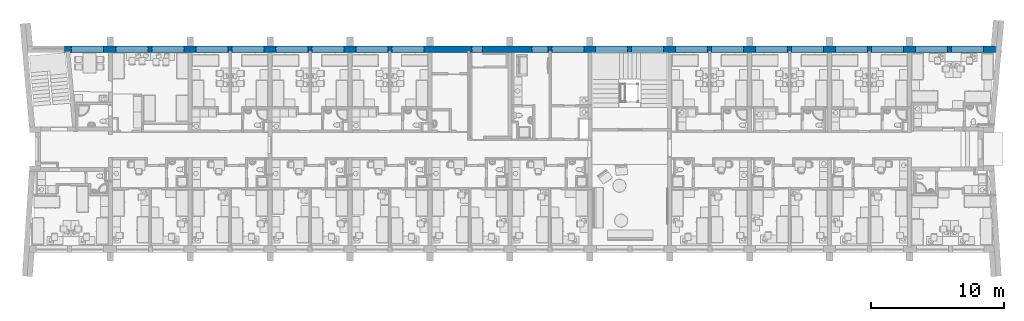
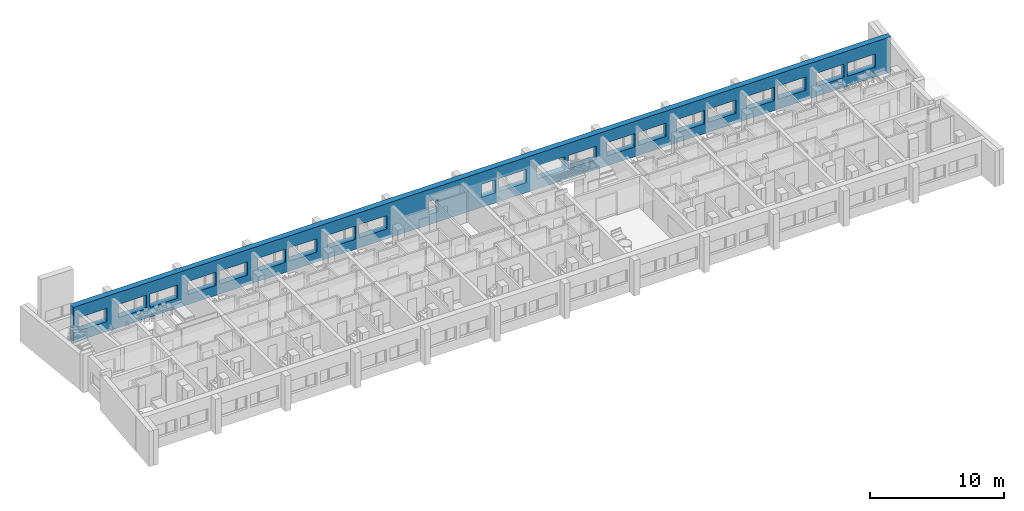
# One storey, part 18 of 165: 1 wall, 22 openings.
"""IFC2X3 building model written with IfcOpenShell, lengths in millimetres."""

from ifc_helpers import new_model, entity, si_unit, converted_unit, money_unit, direction, frame, origin_with_axes, place, context, subcontext, project, spatial, polyline, outline, extrude, material, layer, layer_set, layer_usage, type_object, element, save


model = new_model("IFC2X3")

# Units and contexts
model_context = context("Model", 3, precision=1e-05, world=origin_with_axes(), true_north=direction((0.0, 1.0)))
body_context = subcontext(model_context, "Body", "Model", "MODEL_VIEW")
ifc_project = project(units=[si_unit("LENGTHUNIT", "METRE", prefix="MILLI"), si_unit("AREAUNIT", "SQUARE_METRE"), si_unit("VOLUMEUNIT", "CUBIC_METRE"), converted_unit("PLANEANGLEUNIT", "DEGREE", entity("IfcPlaneAngleMeasure", 0.0174532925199), si_unit("PLANEANGLEUNIT", "RADIAN"), dimensions=[0, 0, 0, 0, 0, 0, 0]), si_unit("SOLIDANGLEUNIT", "STERADIAN"), money_unit("USD"), converted_unit("TIMEUNIT", "Year", entity("IfcTimeMeasure", 31556926.0), si_unit("TIMEUNIT", "SECOND"), dimensions=[0, 0, 0, 0, 0, 0, 0]), si_unit("MASSUNIT", "GRAM"), si_unit("THERMODYNAMICTEMPERATUREUNIT", "DEGREE_CELSIUS"), si_unit("LUMINOUSINTENSITYUNIT", "LUMEN")], contexts=[model_context])

# Site, building, storey
site_placement = place(None, origin_with_axes())
site = spatial("IfcSite", under=ifc_project, at=site_placement, Name="Site", CompositionType="ELEMENT")
building_placement = place(site_placement, origin_with_axes())
building = spatial("IfcBuilding", under=site, at=building_placement, Name="Building", CompositionType="ELEMENT")
storey_placement = place(building_placement, frame((0.0, 0.0, 6300.0), z_axis=(0.0, 0.0, 1.0), x_axis=(1.0, 0.0, 0.0)))
storey = spatial("IfcBuildingStorey", under=building, at=storey_placement, Name="4KORRUS", CompositionType="ELEMENT", Elevation=6300.0)

# Wall, openings
ifc_material = material(Name="Olemasolevad seinad tellis, uus viimistlus")
ifc_layer = layer(ifc_material, 500.0, ventilated="UNKNOWN")
ifc_layer_set = layer_set([ifc_layer], Name="Olemasolevad seinad tellis, uus viimistlus 500")
ifc_layer_usage = layer_usage(ifc_layer_set, "AXIS2", "POSITIVE", -100.0)
wall_type = type_object("IfcWallType", Name="Olemasolevad seinad tellis, uus viimistlus 500", PredefinedType="NOTDEFINED")
wall_placement = place(storey_placement, frame((-51569.3388124, -5039.6041088, 0.0), z_axis=(0.0, 0.0, 1.0), x_axis=(1.0, 0.0, 0.0)))
wall = element("IfcWallStandardCase", 1, at=wall_placement, inside=storey, type_object=wall_type, material=ifc_layer_usage, Name="VS1", ObjectType="VS1", context=body_context, shape_type="SweptSolid", body=[
    extrude(outline(polyline([(0.0, -100.0), (70325.3308379, -100.0), (70325.3308379, 400.0), (0.0, 400.0), (0.0, -100.0)])), origin_with_axes(), (0.0, 0.0, 1.0), 3200.0),
])
opening_1_placement = place(wall_placement, frame((30975.7406449, 0.0, 900.0), z_axis=(0.0, 0.0, 1.0), x_axis=(1.0, 0.0, 0.0)))
element("IfcOpeningElement", 2, at=opening_1_placement, cuts=wall, Name="WD - 001", context=body_context, shape_type="SweptSolid", body=[
    extrude(outline(polyline([(400.0, 1200.0), (-400.0, 1200.0), (-400.0, 0.0), (400.0, 0.0), (400.0, 1200.0)])), frame((0.0, 200.0, 0.0), z_axis=(0.0, -1.0, 0.0), x_axis=(1.0, 0.0, 0.0)), (0.0, 0.0, 1.0), 800.0),
    extrude(outline(polyline([(400.0, 0.0), (-400.0, 0.0), (-400.0, -1200.0), (400.0, -1200.0), (400.0, 0.0)])), frame((0.0, 200.0, 0.0), z_axis=(0.0, 1.0, 0.0), x_axis=(1.0, 0.0, 0.0)), (0.0, 0.0, 1.0), 700.0),
])
opening_2_placement = place(wall_placement, frame((1700.0, 0.0, 900.0), z_axis=(0.0, 0.0, 1.0), x_axis=(1.0, 0.0, 0.0)))
element("IfcOpeningElement", 3, at=opening_2_placement, cuts=wall, Name="A1", context=body_context, shape_type="SweptSolid", body=[
    extrude(outline(polyline([(1200.0, 1200.0), (-1200.0, 1200.0), (-1200.0, 0.0), (1200.0, 0.0), (1200.0, 1200.0)])), frame((0.0, 200.0, 0.0), z_axis=(0.0, -1.0, 0.0), x_axis=(1.0, 0.0, 0.0)), (0.0, 0.0, 1.0), 800.0),
    extrude(outline(polyline([(1200.0, 0.0), (-1200.0, 0.0), (-1200.0, -1200.0), (1200.0, -1200.0), (1200.0, 0.0)])), frame((0.0, 200.0, 0.0), z_axis=(0.0, 1.0, 0.0), x_axis=(1.0, 0.0, 0.0)), (0.0, 0.0, 1.0), 700.0),
])
opening_3_placement = place(wall_placement, frame((5072.04210911, 0.0, 900.0), z_axis=(0.0, 0.0, 1.0), x_axis=(1.0, 0.0, 0.0)))
element("IfcOpeningElement", 4, at=opening_3_placement, cuts=wall, Name="A2", context=body_context, shape_type="SweptSolid", body=[
    extrude(outline(polyline([(-1200.0, 1200.0), (-1200.0, 0.0), (1200.0, 0.0), (1200.0, 1200.0), (-1200.0, 1200.0)])), frame((0.0, 200.0, 0.0), z_axis=(0.0, -1.0, 0.0), x_axis=(1.0, 0.0, 0.0)), (0.0, 0.0, 1.0), 800.0),
    extrude(outline(polyline([(-1200.0, 0.0), (-1200.0, -1200.0), (1200.0, -1200.0), (1200.0, 0.0), (-1200.0, 0.0)])), frame((0.0, 200.0, 0.0), z_axis=(0.0, 1.0, 0.0), x_axis=(1.0, 0.0, 0.0)), (0.0, 0.0, 1.0), 700.0),
])
opening_4_placement = place(wall_placement, frame((7772.04210911, 0.0, 900.0), z_axis=(0.0, 0.0, 1.0), x_axis=(1.0, 0.0, 0.0)))
element("IfcOpeningElement", 5, at=opening_4_placement, cuts=wall, Name="A1", context=body_context, shape_type="SweptSolid", body=[
    extrude(outline(polyline([(1200.0, 1200.0), (-1200.0, 1200.0), (-1200.0, 0.0), (1200.0, 0.0), (1200.0, 1200.0)])), frame((0.0, 200.0, 0.0), z_axis=(0.0, -1.0, 0.0), x_axis=(1.0, 0.0, 0.0)), (0.0, 0.0, 1.0), 800.0),
    extrude(outline(polyline([(1200.0, 0.0), (-1200.0, 0.0), (-1200.0, -1200.0), (1200.0, -1200.0), (1200.0, 0.0)])), frame((0.0, 200.0, 0.0), z_axis=(0.0, 1.0, 0.0), x_axis=(1.0, 0.0, 0.0)), (0.0, 0.0, 1.0), 700.0),
])
opening_5_placement = place(wall_placement, frame((11071.8638221, 0.0, 900.0), z_axis=(0.0, 0.0, 1.0), x_axis=(1.0, 0.0, 0.0)))
element("IfcOpeningElement", 6, at=opening_5_placement, cuts=wall, Name="A2", context=body_context, shape_type="SweptSolid", body=[
    extrude(outline(polyline([(-1200.0, 1200.0), (-1200.0, 0.0), (1200.0, 0.0), (1200.0, 1200.0), (-1200.0, 1200.0)])), frame((0.0, 200.0, 0.0), z_axis=(0.0, -1.0, 0.0), x_axis=(1.0, 0.0, 0.0)), (0.0, 0.0, 1.0), 800.0),
    extrude(outline(polyline([(-1200.0, 0.0), (-1200.0, -1200.0), (1200.0, -1200.0), (1200.0, 0.0), (-1200.0, 0.0)])), frame((0.0, 200.0, 0.0), z_axis=(0.0, 1.0, 0.0), x_axis=(1.0, 0.0, 0.0)), (0.0, 0.0, 1.0), 700.0),
])
opening_6_placement = place(wall_placement, frame((13771.8638221, 0.0, 900.0), z_axis=(0.0, 0.0, 1.0), x_axis=(1.0, 0.0, 0.0)))
element("IfcOpeningElement", 7, at=opening_6_placement, cuts=wall, Name="A1", context=body_context, shape_type="SweptSolid", body=[
    extrude(outline(polyline([(1200.0, 1200.0), (-1200.0, 1200.0), (-1200.0, 0.0), (1200.0, 0.0), (1200.0, 1200.0)])), frame((0.0, 200.0, 0.0), z_axis=(0.0, -1.0, 0.0), x_axis=(1.0, 0.0, 0.0)), (0.0, 0.0, 1.0), 800.0),
    extrude(outline(polyline([(1200.0, 0.0), (-1200.0, 0.0), (-1200.0, -1200.0), (1200.0, -1200.0), (1200.0, 0.0)])), frame((0.0, 200.0, 0.0), z_axis=(0.0, 1.0, 0.0), x_axis=(1.0, 0.0, 0.0)), (0.0, 0.0, 1.0), 700.0),
])
opening_7_placement = place(wall_placement, frame((17060.2982981, 0.0, 900.0), z_axis=(0.0, 0.0, 1.0), x_axis=(1.0, 0.0, 0.0)))
element("IfcOpeningElement", 8, at=opening_7_placement, cuts=wall, Name="A2", context=body_context, shape_type="SweptSolid", body=[
    extrude(outline(polyline([(-1200.0, 1200.0), (-1200.0, 0.0), (1200.0, 0.0), (1200.0, 1200.0), (-1200.0, 1200.0)])), frame((0.0, 200.0, 0.0), z_axis=(0.0, -1.0, 0.0), x_axis=(1.0, 0.0, 0.0)), (0.0, 0.0, 1.0), 800.0),
    extrude(outline(polyline([(-1200.0, 0.0), (-1200.0, -1200.0), (1200.0, -1200.0), (1200.0, 0.0), (-1200.0, 0.0)])), frame((0.0, 200.0, 0.0), z_axis=(0.0, 1.0, 0.0), x_axis=(1.0, 0.0, 0.0)), (0.0, 0.0, 1.0), 700.0),
])
opening_8_placement = place(wall_placement, frame((19760.2982981, 0.0, 900.0), z_axis=(0.0, 0.0, 1.0), x_axis=(1.0, 0.0, 0.0)))
element("IfcOpeningElement", 9, at=opening_8_placement, cuts=wall, Name="A1", context=body_context, shape_type="SweptSolid", body=[
    extrude(outline(polyline([(1200.0, 1200.0), (-1200.0, 1200.0), (-1200.0, 0.0), (1200.0, 0.0), (1200.0, 1200.0)])), frame((0.0, 200.0, 0.0), z_axis=(0.0, -1.0, 0.0), x_axis=(1.0, 0.0, 0.0)), (0.0, 0.0, 1.0), 800.0),
    extrude(outline(polyline([(1200.0, 0.0), (-1200.0, 0.0), (-1200.0, -1200.0), (1200.0, -1200.0), (1200.0, 0.0)])), frame((0.0, 200.0, 0.0), z_axis=(0.0, 1.0, 0.0), x_axis=(1.0, 0.0, 0.0)), (0.0, 0.0, 1.0), 700.0),
])
opening_9_placement = place(wall_placement, frame((23071.8638221, 0.0, 900.0), z_axis=(0.0, 0.0, 1.0), x_axis=(1.0, 0.0, 0.0)))
element("IfcOpeningElement", 10, at=opening_9_placement, cuts=wall, Name="A2", context=body_context, shape_type="SweptSolid", body=[
    extrude(outline(polyline([(-1200.0, 1200.0), (-1200.0, 0.0), (1200.0, 0.0), (1200.0, 1200.0), (-1200.0, 1200.0)])), frame((0.0, 200.0, 0.0), z_axis=(0.0, -1.0, 0.0), x_axis=(1.0, 0.0, 0.0)), (0.0, 0.0, 1.0), 800.0),
    extrude(outline(polyline([(-1200.0, 0.0), (-1200.0, -1200.0), (1200.0, -1200.0), (1200.0, 0.0), (-1200.0, 0.0)])), frame((0.0, 200.0, 0.0), z_axis=(0.0, 1.0, 0.0), x_axis=(1.0, 0.0, 0.0)), (0.0, 0.0, 1.0), 700.0),
])
opening_10_placement = place(wall_placement, frame((25771.8638221, 0.0, 900.0), z_axis=(0.0, 0.0, 1.0), x_axis=(1.0, 0.0, 0.0)))
element("IfcOpeningElement", 11, at=opening_10_placement, cuts=wall, Name="A1", context=body_context, shape_type="SweptSolid", body=[
    extrude(outline(polyline([(1200.0, 1200.0), (-1200.0, 1200.0), (-1200.0, 0.0), (1200.0, 0.0), (1200.0, 1200.0)])), frame((0.0, 200.0, 0.0), z_axis=(0.0, -1.0, 0.0), x_axis=(1.0, 0.0, 0.0)), (0.0, 0.0, 1.0), 800.0),
    extrude(outline(polyline([(1200.0, 0.0), (-1200.0, 0.0), (-1200.0, -1200.0), (1200.0, -1200.0), (1200.0, 0.0)])), frame((0.0, 200.0, 0.0), z_axis=(0.0, 1.0, 0.0), x_axis=(1.0, 0.0, 0.0)), (0.0, 0.0, 1.0), 700.0),
])
opening_11_placement = place(wall_placement, frame((37782.0421091, 0.0, 900.0), z_axis=(0.0, 0.0, 1.0), x_axis=(1.0, 0.0, 0.0)))
element("IfcOpeningElement", 12, at=opening_11_placement, cuts=wall, Name="A1", context=body_context, shape_type="SweptSolid", body=[
    extrude(outline(polyline([(1200.0, 1200.0), (-1200.0, 1200.0), (-1200.0, 0.0), (1200.0, 0.0), (1200.0, 1200.0)])), frame((0.0, 200.0, 0.0), z_axis=(0.0, -1.0, 0.0), x_axis=(1.0, 0.0, 0.0)), (0.0, 0.0, 1.0), 800.0),
    extrude(outline(polyline([(1200.0, 0.0), (-1200.0, 0.0), (-1200.0, -1200.0), (1200.0, -1200.0), (1200.0, 0.0)])), frame((0.0, 200.0, 0.0), z_axis=(0.0, 1.0, 0.0), x_axis=(1.0, 0.0, 0.0)), (0.0, 0.0, 1.0), 700.0),
])
opening_12_placement = place(wall_placement, frame((35682.0421091, 0.0, 900.0), z_axis=(0.0, 0.0, 1.0), x_axis=(1.0, 0.0, 0.0)))
element("IfcOpeningElement", 13, at=opening_12_placement, cuts=wall, Name="A3", context=body_context, shape_type="SweptSolid", body=[
    extrude(outline(polyline([(-600.0, 1200.0), (-600.0, 0.0), (600.0, 0.0), (600.0, 1200.0), (-600.0, 1200.0)])), frame((0.0, 200.0, 0.0), z_axis=(0.0, -1.0, 0.0), x_axis=(1.0, 0.0, 0.0)), (0.0, 0.0, 1.0), 800.0),
    extrude(outline(polyline([(-600.0, 0.0), (-600.0, -1200.0), (600.0, -1200.0), (600.0, 0.0), (-600.0, 0.0)])), frame((0.0, 200.0, 0.0), z_axis=(0.0, 1.0, 0.0), x_axis=(1.0, 0.0, 0.0)), (0.0, 0.0, 1.0), 700.0),
])
opening_13_placement = place(wall_placement, frame((41071.8638221, 0.0, 900.0), z_axis=(0.0, 0.0, 1.0), x_axis=(1.0, 0.0, 0.0)))
element("IfcOpeningElement", 14, at=opening_13_placement, cuts=wall, Name="A2", context=body_context, shape_type="SweptSolid", body=[
    extrude(outline(polyline([(-1200.0, 1200.0), (-1200.0, 0.0), (1200.0, 0.0), (1200.0, 1200.0), (-1200.0, 1200.0)])), frame((0.0, 200.0, 0.0), z_axis=(0.0, -1.0, 0.0), x_axis=(1.0, 0.0, 0.0)), (0.0, 0.0, 1.0), 800.0),
    extrude(outline(polyline([(-1200.0, 0.0), (-1200.0, -1200.0), (1200.0, -1200.0), (1200.0, 0.0), (-1200.0, 0.0)])), frame((0.0, 200.0, 0.0), z_axis=(0.0, 1.0, 0.0), x_axis=(1.0, 0.0, 0.0)), (0.0, 0.0, 1.0), 700.0),
])
opening_14_placement = place(wall_placement, frame((43771.8638221, 0.0, 900.0), z_axis=(0.0, 0.0, 1.0), x_axis=(1.0, 0.0, 0.0)))
element("IfcOpeningElement", 15, at=opening_14_placement, cuts=wall, Name="A1", context=body_context, shape_type="SweptSolid", body=[
    extrude(outline(polyline([(1200.0, 1200.0), (-1200.0, 1200.0), (-1200.0, 0.0), (1200.0, 0.0), (1200.0, 1200.0)])), frame((0.0, 200.0, 0.0), z_axis=(0.0, -1.0, 0.0), x_axis=(1.0, 0.0, 0.0)), (0.0, 0.0, 1.0), 800.0),
    extrude(outline(polyline([(1200.0, 0.0), (-1200.0, 0.0), (-1200.0, -1200.0), (1200.0, -1200.0), (1200.0, 0.0)])), frame((0.0, 200.0, 0.0), z_axis=(0.0, 1.0, 0.0), x_axis=(1.0, 0.0, 0.0)), (0.0, 0.0, 1.0), 700.0),
])
opening_15_placement = place(wall_placement, frame((47082.0421091, 0.0, 900.0), z_axis=(0.0, 0.0, 1.0), x_axis=(1.0, 0.0, 0.0)))
element("IfcOpeningElement", 16, at=opening_15_placement, cuts=wall, Name="A2", context=body_context, shape_type="SweptSolid", body=[
    extrude(outline(polyline([(-1200.0, 1200.0), (-1200.0, 0.0), (1200.0, 0.0), (1200.0, 1200.0), (-1200.0, 1200.0)])), frame((0.0, 200.0, 0.0), z_axis=(0.0, -1.0, 0.0), x_axis=(1.0, 0.0, 0.0)), (0.0, 0.0, 1.0), 800.0),
    extrude(outline(polyline([(-1200.0, 0.0), (-1200.0, -1200.0), (1200.0, -1200.0), (1200.0, 0.0), (-1200.0, 0.0)])), frame((0.0, 200.0, 0.0), z_axis=(0.0, 1.0, 0.0), x_axis=(1.0, 0.0, 0.0)), (0.0, 0.0, 1.0), 700.0),
])
opening_16_placement = place(wall_placement, frame((49782.0421091, 0.0, 900.0), z_axis=(0.0, 0.0, 1.0), x_axis=(1.0, 0.0, 0.0)))
element("IfcOpeningElement", 17, at=opening_16_placement, cuts=wall, Name="A1", context=body_context, shape_type="SweptSolid", body=[
    extrude(outline(polyline([(1200.0, 1200.0), (-1200.0, 1200.0), (-1200.0, 0.0), (1200.0, 0.0), (1200.0, 1200.0)])), frame((0.0, 200.0, 0.0), z_axis=(0.0, -1.0, 0.0), x_axis=(1.0, 0.0, 0.0)), (0.0, 0.0, 1.0), 800.0),
    extrude(outline(polyline([(1200.0, 0.0), (-1200.0, 0.0), (-1200.0, -1200.0), (1200.0, -1200.0), (1200.0, 0.0)])), frame((0.0, 200.0, 0.0), z_axis=(0.0, 1.0, 0.0), x_axis=(1.0, 0.0, 0.0)), (0.0, 0.0, 1.0), 700.0),
])
opening_17_placement = place(wall_placement, frame((53082.0421091, 0.0, 900.0), z_axis=(0.0, 0.0, 1.0), x_axis=(1.0, 0.0, 0.0)))
element("IfcOpeningElement", 18, at=opening_17_placement, cuts=wall, Name="A2", context=body_context, shape_type="SweptSolid", body=[
    extrude(outline(polyline([(-1200.0, 1200.0), (-1200.0, 0.0), (1200.0, 0.0), (1200.0, 1200.0), (-1200.0, 1200.0)])), frame((0.0, 200.0, 0.0), z_axis=(0.0, -1.0, 0.0), x_axis=(1.0, 0.0, 0.0)), (0.0, 0.0, 1.0), 800.0),
    extrude(outline(polyline([(-1200.0, 0.0), (-1200.0, -1200.0), (1200.0, -1200.0), (1200.0, 0.0), (-1200.0, 0.0)])), frame((0.0, 200.0, 0.0), z_axis=(0.0, 1.0, 0.0), x_axis=(1.0, 0.0, 0.0)), (0.0, 0.0, 1.0), 700.0),
])
opening_18_placement = place(wall_placement, frame((55782.0421091, 0.0, 900.0), z_axis=(0.0, 0.0, 1.0), x_axis=(1.0, 0.0, 0.0)))
element("IfcOpeningElement", 19, at=opening_18_placement, cuts=wall, Name="A1", context=body_context, shape_type="SweptSolid", body=[
    extrude(outline(polyline([(1200.0, 1200.0), (-1200.0, 1200.0), (-1200.0, 0.0), (1200.0, 0.0), (1200.0, 1200.0)])), frame((0.0, 200.0, 0.0), z_axis=(0.0, -1.0, 0.0), x_axis=(1.0, 0.0, 0.0)), (0.0, 0.0, 1.0), 800.0),
    extrude(outline(polyline([(1200.0, 0.0), (-1200.0, 0.0), (-1200.0, -1200.0), (1200.0, -1200.0), (1200.0, 0.0)])), frame((0.0, 200.0, 0.0), z_axis=(0.0, 1.0, 0.0), x_axis=(1.0, 0.0, 0.0)), (0.0, 0.0, 1.0), 700.0),
])
opening_19_placement = place(wall_placement, frame((59082.0421091, 0.0, 900.0), z_axis=(0.0, 0.0, 1.0), x_axis=(1.0, 0.0, 0.0)))
element("IfcOpeningElement", 20, at=opening_19_placement, cuts=wall, Name="A2", context=body_context, shape_type="SweptSolid", body=[
    extrude(outline(polyline([(-1200.0, 1200.0), (-1200.0, 0.0), (1200.0, 0.0), (1200.0, 1200.0), (-1200.0, 1200.0)])), frame((0.0, 200.0, 0.0), z_axis=(0.0, -1.0, 0.0), x_axis=(1.0, 0.0, 0.0)), (0.0, 0.0, 1.0), 800.0),
    extrude(outline(polyline([(-1200.0, 0.0), (-1200.0, -1200.0), (1200.0, -1200.0), (1200.0, 0.0), (-1200.0, 0.0)])), frame((0.0, 200.0, 0.0), z_axis=(0.0, 1.0, 0.0), x_axis=(1.0, 0.0, 0.0)), (0.0, 0.0, 1.0), 700.0),
])
opening_20_placement = place(wall_placement, frame((61782.0421091, 0.0, 900.0), z_axis=(0.0, 0.0, 1.0), x_axis=(1.0, 0.0, 0.0)))
element("IfcOpeningElement", 21, at=opening_20_placement, cuts=wall, Name="A1", context=body_context, shape_type="SweptSolid", body=[
    extrude(outline(polyline([(1200.0, 1200.0), (-1200.0, 1200.0), (-1200.0, 0.0), (1200.0, 0.0), (1200.0, 1200.0)])), frame((0.0, 200.0, 0.0), z_axis=(0.0, -1.0, 0.0), x_axis=(1.0, 0.0, 0.0)), (0.0, 0.0, 1.0), 800.0),
    extrude(outline(polyline([(1200.0, 0.0), (-1200.0, 0.0), (-1200.0, -1200.0), (1200.0, -1200.0), (1200.0, 0.0)])), frame((0.0, 200.0, 0.0), z_axis=(0.0, 1.0, 0.0), x_axis=(1.0, 0.0, 0.0)), (0.0, 0.0, 1.0), 700.0),
])
opening_21_placement = place(wall_placement, frame((65082.0421091, 0.0, 900.0), z_axis=(0.0, 0.0, 1.0), x_axis=(1.0, 0.0, 0.0)))
element("IfcOpeningElement", 22, at=opening_21_placement, cuts=wall, Name="A2", context=body_context, shape_type="SweptSolid", body=[
    extrude(outline(polyline([(-1200.0, 1200.0), (-1200.0, 0.0), (1200.0, 0.0), (1200.0, 1200.0), (-1200.0, 1200.0)])), frame((0.0, 200.0, 0.0), z_axis=(0.0, -1.0, 0.0), x_axis=(1.0, 0.0, 0.0)), (0.0, 0.0, 1.0), 800.0),
    extrude(outline(polyline([(-1200.0, 0.0), (-1200.0, -1200.0), (1200.0, -1200.0), (1200.0, 0.0), (-1200.0, 0.0)])), frame((0.0, 200.0, 0.0), z_axis=(0.0, 1.0, 0.0), x_axis=(1.0, 0.0, 0.0)), (0.0, 0.0, 1.0), 700.0),
])
opening_22_placement = place(wall_placement, frame((67782.0421091, 0.0, 900.0), z_axis=(0.0, 0.0, 1.0), x_axis=(1.0, 0.0, 0.0)))
element("IfcOpeningElement", 23, at=opening_22_placement, cuts=wall, Name="A1", context=body_context, shape_type="SweptSolid", body=[
    extrude(outline(polyline([(1200.0, 1200.0), (-1200.0, 1200.0), (-1200.0, 0.0), (1200.0, 0.0), (1200.0, 1200.0)])), frame((0.0, 200.0, 0.0), z_axis=(0.0, -1.0, 0.0), x_axis=(1.0, 0.0, 0.0)), (0.0, 0.0, 1.0), 800.0),
    extrude(outline(polyline([(1200.0, 0.0), (-1200.0, 0.0), (-1200.0, -1200.0), (1200.0, -1200.0), (1200.0, 0.0)])), frame((0.0, 200.0, 0.0), z_axis=(0.0, 1.0, 0.0), x_axis=(1.0, 0.0, 0.0)), (0.0, 0.0, 1.0), 700.0),
])

save(model, "model.ifc")
